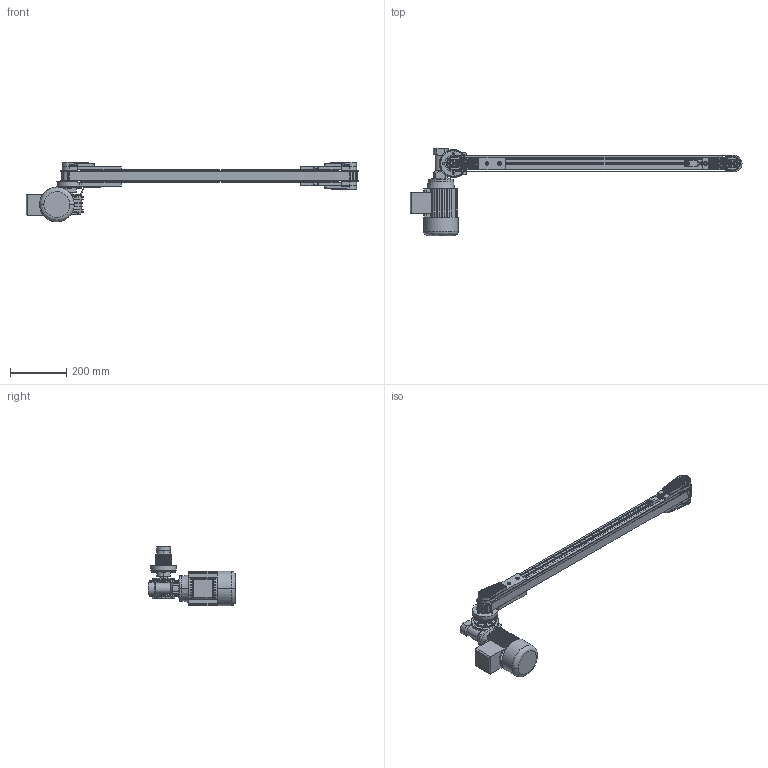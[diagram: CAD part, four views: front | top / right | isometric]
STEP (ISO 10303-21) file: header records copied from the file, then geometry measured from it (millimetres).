
FILE_DESCRIPTION (( 'STEP AP203' ), '1' );
FILE_NAME ('NASTRO_PISTE_PARALLELE.step', '2026-04-24T14:48:40', ( 'Utente Windows' ), ( '' ), 'SwSTEP 2.0', 'SolidWorks 2024', '' );
FILE_SCHEMA (( 'CONFIG_CONTROL_DESIGN' ));
Length unit declared in the file: millimetre
Products named in the file (26): 084.302.000 DADI ALUSIC 13x13-1_084.302.004; 084.802.071; 084.807.004_084.807.004; CHIAVETTE_A 8x7x30 UNI 6604-69; 084.802.062; NASTRO_PISTE_PARALLELE; VITI TCEI UNI 5931_M4x12 UNI 5931; CH04P_DX; TAPPETO_STANDARD; 084.802.008; 084.802.060_Default<A macchina>; D50_L32_CINGHIA_RINVIO; 084.802.017_084.802.017; 084.301.000 VITI ALUSIC-2_084.301.003; D50_L32_CINGHIA_TRAINO_PISTA_SINGOLA_DX; 084.808.012; 084.802.034_084.802.034; CHIAVETTE_A 6x6x60 UNI 6604-69; VITI TE UNI 5739_M8x12 UNI 5739; 084.812.018; 084.807.002_084.807.002; 084.812.016; PROFILO_POLIZENE_CINGHIA_L32_Default<A macchina>; 084.807.001_084.807.001; TELAIO_45X45_Default<A macchina>; 084.812.017
Assembly tree (51 placements, depth 3):
  NASTRO_PISTE_PARALLELE
    TAPPETO_STANDARD
    PROFILO_POLIZENE_CINGHIA_L32_Default<A macchina>
    TELAIO_45X45_Default<A macchina>
    D50_L32_CINGHIA_TRAINO_PISTA_SINGOLA_DX
      084.802.017_084.802.017
      084.807.002_084.807.002
      084.812.016
      084.812.018
      084.807.001_084.807.001
      084.802.034_084.802.034
      CHIAVETTE_A 6x6x60 UNI 6604-69
      CHIAVETTE_A 8x7x30 UNI 6604-69
      084.802.062
      084.802.060_Default<A macchina>
      084.802.071
      VITI TE UNI 5739_M8x12 UNI 5739  x4
      VITI TCEI UNI 5931_M4x12 UNI 5931  x2
      084.808.012
    D50_L32_CINGHIA_RINVIO
      084.802.017_084.802.017  x2
      084.807.004_084.807.004  x2
      084.802.008  x2
      084.812.016
      084.812.017
      CHIAVETTE_A 8x7x30 UNI 6604-69
      084.301.000 VITI ALUSIC-2_084.301.003  x6
      084.302.000 DADI ALUSIC 13x13-1_084.302.004  x6
      084.802.071  x2
      VITI TCEI UNI 5931_M4x12 UNI 5931  x4
    CH04P_DX
Bounding box: 1184.58 x 311 x 212.5 mm (x, y, z)
Volume: 4715857.6 mm3; surface area: 1240706.6 mm2
Topology: 60 solids, 69 shells, 4061 faces, 10538 edges, 6739 vertices
Faces by surface type: plane 1903, cylinder 1033, bspline 482, cone 400, torus 215, sphere 28
Entity records: 83798 total; most frequent: CARTESIAN_POINT 25401, ORIENTED_EDGE 11810, DIRECTION 11077, EDGE_CURVE 5905, AXIS2_PLACEMENT_3D 3975, VERTEX_POINT 3789, LINE 3127, VECTOR 3127
